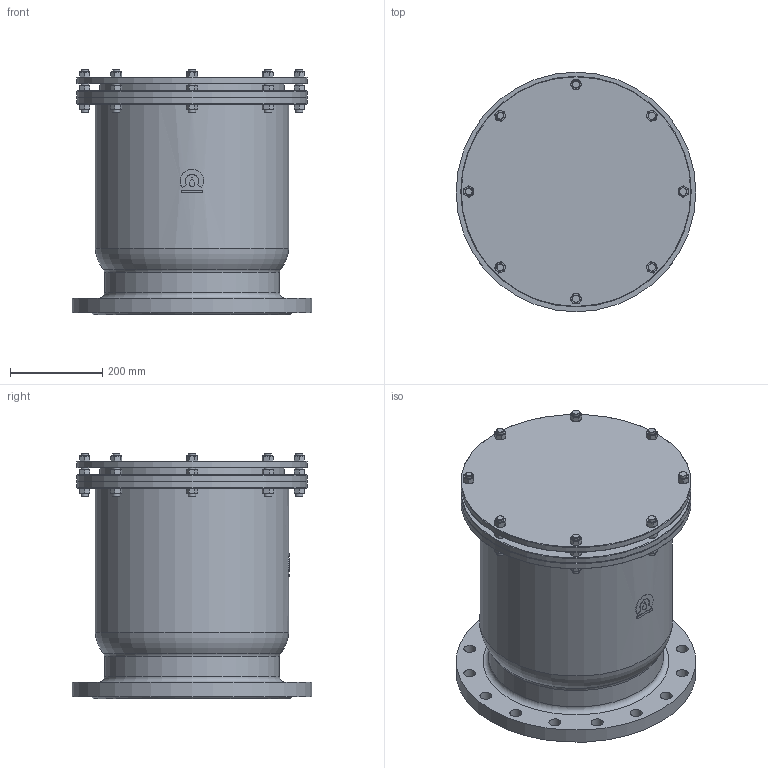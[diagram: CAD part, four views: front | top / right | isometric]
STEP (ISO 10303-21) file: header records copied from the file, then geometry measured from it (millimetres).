
FILE_DESCRIPTION(('STEP AP203'), '1');
FILE_NAME('Òèï A10F - Âîçäóõîîòâîä÷èê îäíîêàìåðíûé DN350', '', ('UNSPECIFIED'), ('UNSPECIFIED'), 'ASCON STEP Converter 1.6', 'ASCON Math Kernel', '');
FILE_SCHEMA(('CONFIG_CONTROL_DESIGN'));
Length unit declared in the file: millimetre
Products named in the file (1): Тип A10F
Bounding box: 520 x 520 x 533 mm (x, y, z)
Volume: 57647621.2 mm3; surface area: 1631343.4 mm2
Topology: 1 solids, 1 shells, 560 faces, 1221 edges, 714 vertices
Faces by surface type: cone 297, plane 204, cylinder 56, torus 3
Full cylindrical faces by diameter (mm): 16 x24, 26 x16, 350 x1, 380 x1, 400 x1, 420 x1, 498 x1, 500 x3, 520 x1
Entity records: 32261 total; most frequent: CARTESIAN_POINT 16584, ORIENTED_EDGE 2320, DIRECTION 2105, EDGE_CURVE 1160, AXIS2_PLACEMENT_3D 969, EDGE_LOOP 720, VERTEX_POINT 714, FACE_BOUND 598
